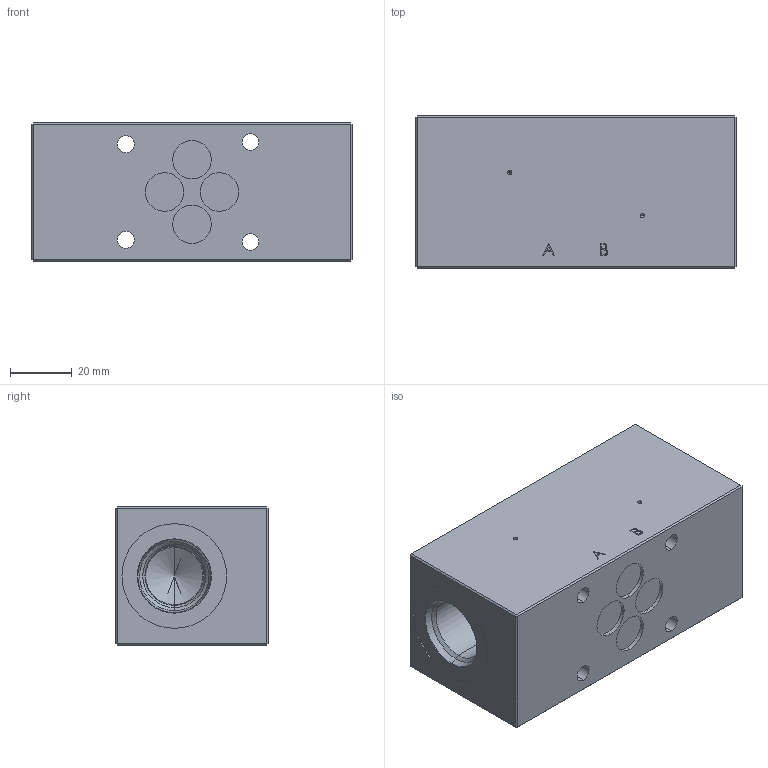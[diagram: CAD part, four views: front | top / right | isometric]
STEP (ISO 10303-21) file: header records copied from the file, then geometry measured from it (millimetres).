
FILE_DESCRIPTION (( 'STEP AP214' ), '1' );
FILE_NAME ('SV.SA06-ABC_ABO.STEP', '2021-06-17T12:11:22', ( '' ), ( '' ), 'SwSTEP 2.0', 'SolidWorks 2020', '' );
FILE_SCHEMA (( 'AUTOMOTIVE_DESIGN' ));
Length unit declared in the file: millimetre
Products named in the file (1): SV.SA06-ABC_ABO
Bounding box: 104 x 49.5 x 45 mm (x, y, z)
Volume: 196723.8 mm3; surface area: 33109.7 mm2
Topology: 1 solids, 1 shells, 148 faces, 338 edges, 197 vertices
Faces by surface type: plane 59, cylinder 44, cone 28, bspline 9, torus 8
Entity records: 4612 total; most frequent: CARTESIAN_POINT 1251, DIRECTION 694, ORIENTED_EDGE 648, EDGE_CURVE 324, AXIS2_PLACEMENT_3D 252, VERTEX_POINT 197, VECTOR 190, LINE 190
